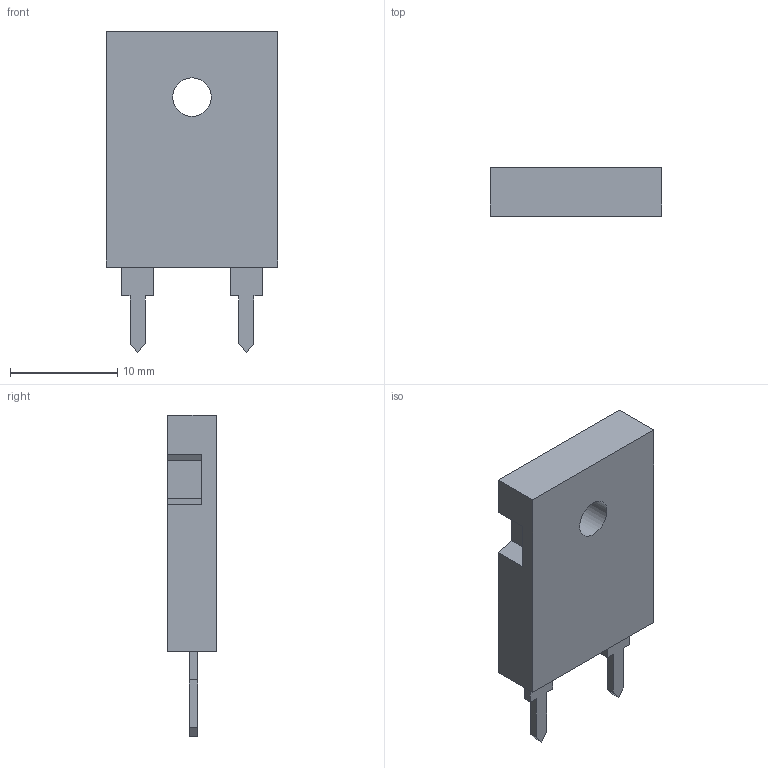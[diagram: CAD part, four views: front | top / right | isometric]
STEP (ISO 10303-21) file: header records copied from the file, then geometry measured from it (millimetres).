
FILE_DESCRIPTION(('STEP AP203'), '1');
FILE_NAME('Ð2-108À', '', ('UNSPECIFIED'), ('UNSPECIFIED'), 'ASCON STEP Converter 1.6', 'ASCON Math Kernel', '');
FILE_SCHEMA(('CONFIG_CONTROL_DESIGN'));
Length unit declared in the file: millimetre
Assembly tree (1 placements, depth 2):
  (unnamed)
    (unnamed)
Bounding box: 16 x 4.55 x 30 mm (x, y, z)
Volume: 1532.2 mm3; surface area: 1182.1 mm2
Topology: 1 solids, 1 shells, 35 faces, 93 edges, 62 vertices
Faces by surface type: plane 34, cylinder 1
Full cylindrical faces by diameter (mm): 3.6 x1
Entity records: 1442 total; most frequent: CARTESIAN_POINT 191, ORIENTED_EDGE 184, DIRECTION 168, EDGE_CURVE 92, LINE 90, VECTOR 90, VERTEX_POINT 62, EDGE_LOOP 40
